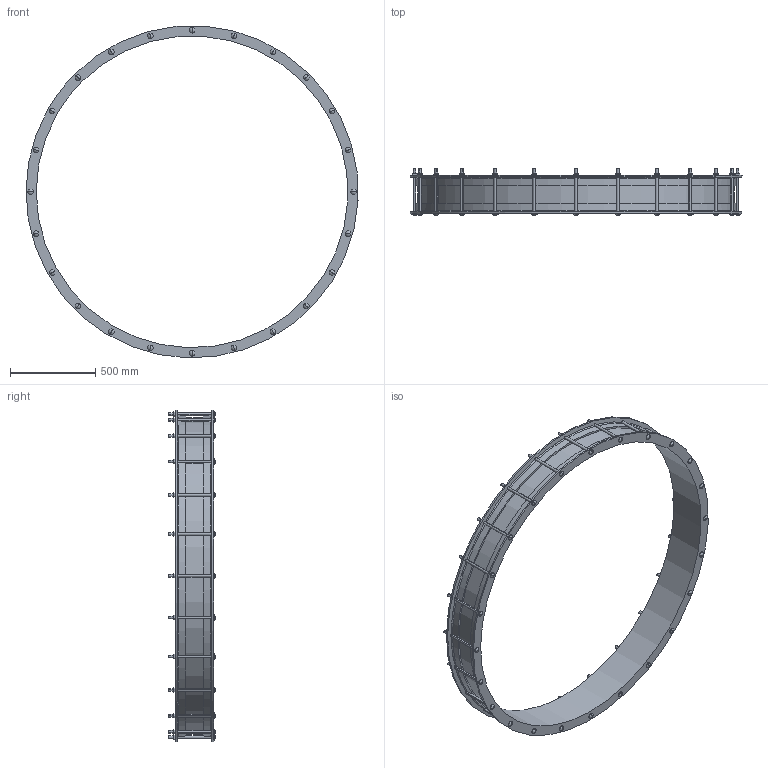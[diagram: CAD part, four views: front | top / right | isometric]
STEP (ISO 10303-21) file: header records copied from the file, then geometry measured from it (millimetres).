
FILE_DESCRIPTION((''),'2;1');
FILE_NAME('A2E_COUP_1829','2018-12-06T',('mfairey'),('Glynwed Pipe Systems'),'CREO PARAMETRIC BY PTC INC, 2016130','CREO PARAMETRIC BY PTC INC, 2016130','');
FILE_SCHEMA(('CONFIG_CONTROL_DESIGN'));
Length unit declared in the file: millimetre
Products named in the file (1): A2E_COUP_1829
Bounding box: 1952.73 x 275.68 x 1950.93 mm (x, y, z)
Volume: 34050011.8 mm3; surface area: 4057221.5 mm2
Topology: 1 solids, 1 shells, 568 faces, 1568 edges, 1004 vertices
Faces by surface type: plane 220, cylinder 200, cone 52, torus 48, sphere 48
Entity records: 22717 total; most frequent: CARTESIAN_POINT 8507, ORIENTED_EDGE 3040, DIRECTION 2860, EDGE_CURVE 1520, AXIS2_PLACEMENT_3D 1112, VERTEX_POINT 1004, EDGE_LOOP 668, VECTOR 636
